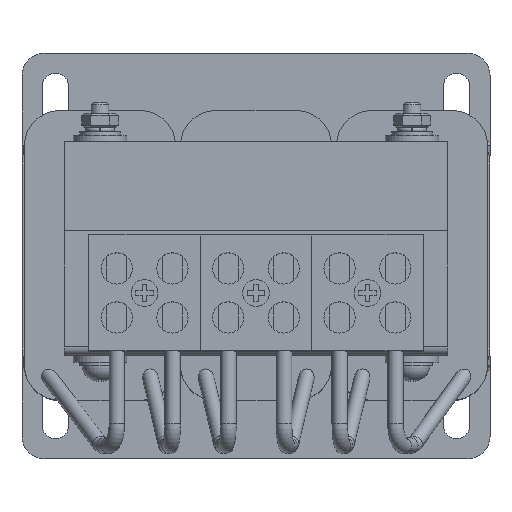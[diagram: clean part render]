
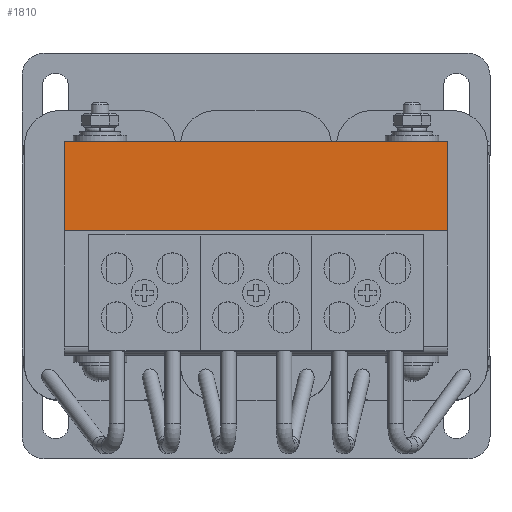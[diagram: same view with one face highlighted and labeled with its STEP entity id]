
A CAD part, top view. The second image highlights one B-rep face of the part: STEP entity #1810.
In plain terms, the highlighted planar face has unit normal (0, 0, 1).
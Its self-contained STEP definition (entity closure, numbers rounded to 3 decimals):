
#1810=ADVANCED_FACE('',(#2494),#2496,.T.);
#2494=FACE_BOUND('',#2495,.T.);
#2495=EDGE_LOOP('',(#4104,#4105,#4106,#4107));
#2496=PLANE('',#2497);
#2497=AXIS2_PLACEMENT_3D('',#2498,#2499,#2500);
#2498=CARTESIAN_POINT('',(0.,0.,15.));
#2499=DIRECTION('',(0.,0.,1.));
#2500=DIRECTION('',(-1.,0.,0.));
#4104=ORIENTED_EDGE('',*,*,#4933,.F.);
#4105=ORIENTED_EDGE('',*,*,#4934,.T.);
#4106=ORIENTED_EDGE('',*,*,#4914,.T.);
#4107=ORIENTED_EDGE('',*,*,#4932,.T.);
#4914=EDGE_CURVE('',#5516,#5514,#5517,.T.);
#4932=EDGE_CURVE('',#5514,#5547,#5549,.T.);
#4933=EDGE_CURVE('',#5550,#5547,#5551,.T.);
#4934=EDGE_CURVE('',#5550,#5516,#5552,.T.);
#5514=VERTEX_POINT('',#6718);
#5516=VERTEX_POINT('',#6722);
#5517=LINE('',#6723,#6724);
#5547=VERTEX_POINT('',#6793);
#5549=LINE('',#6797,#6798);
#5550=VERTEX_POINT('',#6800);
#5551=LINE('',#6801,#6802);
#5552=LINE('',#6804,#6805);
#6718=CARTESIAN_POINT('',(-43.,24.,15.));
#6722=CARTESIAN_POINT('',(43.,24.,15.));
#6723=CARTESIAN_POINT('',(43.,24.,15.));
#6724=VECTOR('',#6725,1.);
#6725=DIRECTION('',(-1.,0.,0.));
#6793=CARTESIAN_POINT('',(-43.,-22.,15.));
#6797=CARTESIAN_POINT('',(-43.,24.,15.));
#6798=VECTOR('',#6799,1.);
#6799=DIRECTION('',(0.,-1.,0.));
#6800=CARTESIAN_POINT('',(43.,-22.,15.));
#6801=CARTESIAN_POINT('',(43.,-22.,15.));
#6802=VECTOR('',#6803,1.);
#6803=DIRECTION('',(-1.,0.,0.));
#6804=CARTESIAN_POINT('',(43.,-22.,15.));
#6805=VECTOR('',#6806,1.);
#6806=DIRECTION('',(0.,1.,0.));
